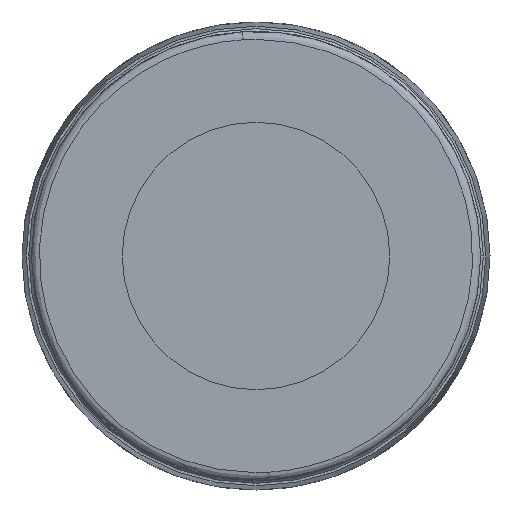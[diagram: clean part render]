
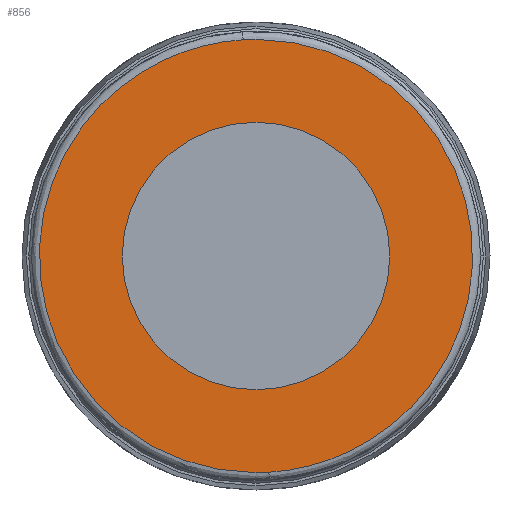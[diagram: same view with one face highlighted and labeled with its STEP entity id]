
A CAD part, left-side view. The second image highlights one B-rep face of the part: STEP entity #856.
In plain terms, the highlighted planar face has unit normal (-1, 0, 0).
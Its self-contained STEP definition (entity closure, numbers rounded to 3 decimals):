
#27 =( BOUNDED_CURVE ( )  B_SPLINE_CURVE ( 3, ( #453, #596, #1908, #1746 ),
 .UNSPECIFIED., .F., .F. ) 
 B_SPLINE_CURVE_WITH_KNOTS ( ( 4, 4 ),
 ( 0., 0.981 ),
 .UNSPECIFIED. ) 
 CURVE ( )  GEOMETRIC_REPRESENTATION_ITEM ( )  RATIONAL_B_SPLINE_CURVE ( ( 1., 0.353, 0.353, 1. ) ) 
 REPRESENTATION_ITEM ( '' )  );
#37 = ORIENTED_EDGE ( 'NONE', *, *, #302, .F. ) ;
#59 = CARTESIAN_POINT ( 'NONE',  ( -21.7, 0.321, 8.095 ) ) ;
#116 = AXIS2_PLACEMENT_3D ( 'NONE', #2272, #1497, #1353 ) ;
#272 = ORIENTED_EDGE ( 'NONE', *, *, #2342, .F. ) ;
#302 = EDGE_CURVE ( 'NONE', #2238, #653, #868, .T. ) ;
#323 = AXIS2_PLACEMENT_3D ( 'NONE', #568, #2054, #1302 ) ;
#324 = EDGE_CURVE ( 'NONE', #1474, #358, #621, .T. ) ;
#358 = VERTEX_POINT ( 'NONE', #1527 ) ;
#382 = EDGE_LOOP ( 'NONE', ( #1374, #587 ) ) ;
#406 = CARTESIAN_POINT ( 'NONE',  ( -21.7, 0., 0. ) ) ;
#433 = CARTESIAN_POINT ( 'NONE',  ( -21.7, -0.161, -8.1 ) ) ;
#453 = CARTESIAN_POINT ( 'NONE',  ( -21.7, 0., -8.1 ) ) ;
#485 = CARTESIAN_POINT ( 'NONE',  ( -21.7, -0.481, -8.086 ) ) ;
#562 = ORIENTED_EDGE ( 'NONE', *, *, #2162, .F. ) ;
#568 = CARTESIAN_POINT ( 'NONE',  ( -21.7, -8.6, -8.6 ) ) ;
#586 = CARTESIAN_POINT ( 'NONE',  ( -21.7, 0.481, 8.086 ) ) ;
#587 = ORIENTED_EDGE ( 'NONE', *, *, #1237, .T. ) ;
#596 = CARTESIAN_POINT ( 'NONE',  ( -21.7, 15.284, -8.1 ) ) ;
#621 = CIRCLE ( 'NONE', #116, 5. ) ;
#627 = ORIENTED_EDGE ( 'NONE', *, *, #1677, .F. ) ;
#653 = VERTEX_POINT ( 'NONE', #1811 ) ;
#707 = AXIS2_PLACEMENT_3D ( 'NONE', #406, #2053, #1509 ) ;
#745 = CARTESIAN_POINT ( 'NONE',  ( -21.7, -0.321, -8.095 ) ) ;
#749 = FACE_OUTER_BOUND ( 'NONE', #2245, .T. ) ;
#762 = VERTEX_POINT ( 'NONE', #1312 ) ;
#811 = CARTESIAN_POINT ( 'NONE',  ( -21.7, 0., 8.1 ) ) ;
#856 = ADVANCED_FACE ( '15', ( #1922, #749 ), #2223, .T. ) ;
#868 =( BOUNDED_CURVE ( )  B_SPLINE_CURVE ( 3, ( #586, #59, #1328, #811 ),
 .UNSPECIFIED., .F., .F. ) 
 B_SPLINE_CURVE_WITH_KNOTS ( ( 4, 4 ),
 ( 0.981, 1. ),
 .UNSPECIFIED. ) 
 CURVE ( )  GEOMETRIC_REPRESENTATION_ITEM ( )  RATIONAL_B_SPLINE_CURVE ( ( 1., 1., 1., 1. ) ) 
 REPRESENTATION_ITEM ( '' )  );
#932 = VERTEX_POINT ( 'NONE', #1775 ) ;
#941 =( BOUNDED_CURVE ( )  B_SPLINE_CURVE ( 3, ( #1897, #745, #433, #976 ),
 .UNSPECIFIED., .F., .F. ) 
 B_SPLINE_CURVE_WITH_KNOTS ( ( 4, 4 ),
 ( 0.981, 1. ),
 .UNSPECIFIED. ) 
 CURVE ( )  GEOMETRIC_REPRESENTATION_ITEM ( )  RATIONAL_B_SPLINE_CURVE ( ( 1., 1., 1., 1. ) ) 
 REPRESENTATION_ITEM ( '' )  );
#976 = CARTESIAN_POINT ( 'NONE',  ( -21.7, 0., -8.1 ) ) ;
#1018 = CIRCLE ( 'NONE', #707, 5. ) ;
#1043 = CARTESIAN_POINT ( 'NONE',  ( -21.7, 0., 8.1 ) ) ;
#1195 =( BOUNDED_CURVE ( )  B_SPLINE_CURVE ( 3, ( #1043, #2118, #2353, #485 ),
 .UNSPECIFIED., .F., .F. ) 
 B_SPLINE_CURVE_WITH_KNOTS ( ( 4, 4 ),
 ( 0., 0.981 ),
 .UNSPECIFIED. ) 
 CURVE ( )  GEOMETRIC_REPRESENTATION_ITEM ( )  RATIONAL_B_SPLINE_CURVE ( ( 1., 0.353, 0.353, 1. ) ) 
 REPRESENTATION_ITEM ( '' )  );
#1237 = EDGE_CURVE ( 'NONE', #358, #1474, #1018, .T. ) ;
#1302 = DIRECTION ( 'NONE',  ( 0., 0., 1. ) ) ;
#1312 = CARTESIAN_POINT ( 'NONE',  ( -21.7, -0.481, -8.086 ) ) ;
#1328 = CARTESIAN_POINT ( 'NONE',  ( -21.7, 0.161, 8.1 ) ) ;
#1353 = DIRECTION ( 'NONE',  ( 0., 0., -1. ) ) ;
#1374 = ORIENTED_EDGE ( 'NONE', *, *, #324, .T. ) ;
#1474 = VERTEX_POINT ( 'NONE', #2237 ) ;
#1497 = DIRECTION ( 'NONE',  ( 1., 0., 0. ) ) ;
#1509 = DIRECTION ( 'NONE',  ( 0., 0., -1. ) ) ;
#1527 = CARTESIAN_POINT ( 'NONE',  ( -21.7, 0., 5. ) ) ;
#1677 = EDGE_CURVE ( 'NONE', #932, #2238, #27, .T. ) ;
#1746 = CARTESIAN_POINT ( 'NONE',  ( -21.7, 0.481, 8.086 ) ) ;
#1775 = CARTESIAN_POINT ( 'NONE',  ( -21.7, 0., -8.1 ) ) ;
#1811 = CARTESIAN_POINT ( 'NONE',  ( -21.7, 0., 8.1 ) ) ;
#1897 = CARTESIAN_POINT ( 'NONE',  ( -21.7, -0.481, -8.086 ) ) ;
#1908 = CARTESIAN_POINT ( 'NONE',  ( -21.7, 15.739, 7.177 ) ) ;
#1922 = FACE_BOUND ( 'NONE', #382, .T. ) ;
#1964 = CARTESIAN_POINT ( 'NONE',  ( -21.7, 0.481, 8.086 ) ) ;
#2053 = DIRECTION ( 'NONE',  ( 1., 0., 0. ) ) ;
#2054 = DIRECTION ( 'NONE',  ( -1., 0., 0. ) ) ;
#2118 = CARTESIAN_POINT ( 'NONE',  ( -21.7, -15.284, 8.1 ) ) ;
#2162 = EDGE_CURVE ( 'NONE', #653, #762, #1195, .T. ) ;
#2223 = PLANE ( 'NONE',  #323 ) ;
#2237 = CARTESIAN_POINT ( 'NONE',  ( -21.7, 0., -5. ) ) ;
#2238 = VERTEX_POINT ( 'NONE', #1964 ) ;
#2245 = EDGE_LOOP ( 'NONE', ( #562, #37, #627, #272 ) ) ;
#2272 = CARTESIAN_POINT ( 'NONE',  ( -21.7, 0., 0. ) ) ;
#2342 = EDGE_CURVE ( 'NONE', #762, #932, #941, .T. ) ;
#2353 = CARTESIAN_POINT ( 'NONE',  ( -21.7, -15.739, -7.177 ) ) ;
